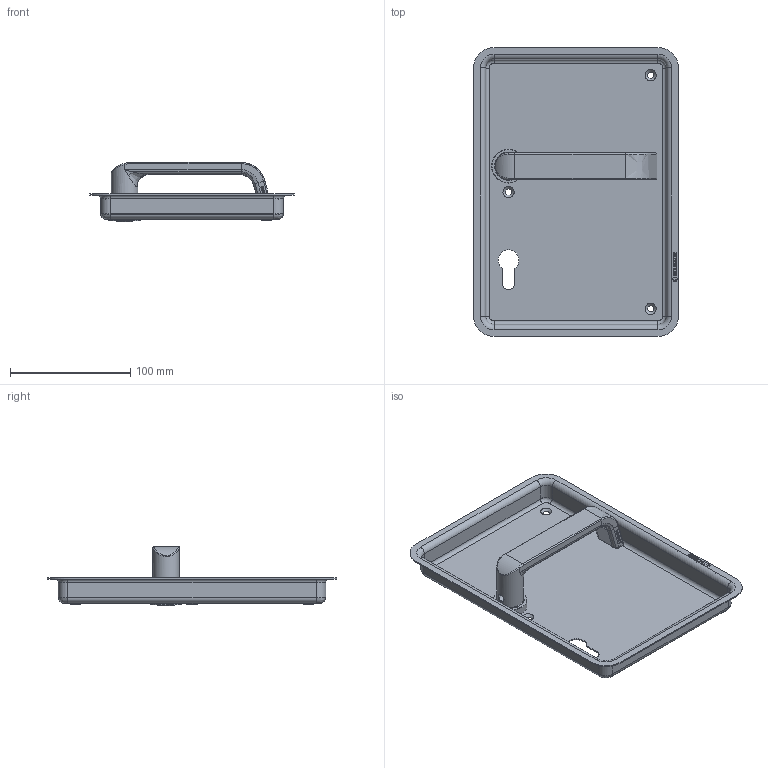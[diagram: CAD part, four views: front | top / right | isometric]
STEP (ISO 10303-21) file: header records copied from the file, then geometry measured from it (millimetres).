
FILE_DESCRIPTION(/* description */ (''),/* implementation_level */ '2;1');
FILE_NAME(/* name */ 'C:\ADSK_DMS_WS\Designs\Vorschläge\Loc Schalen\Muschel Serie 3\S3.20.D2\Heusser-Muschel S3.20.D2.378R.stp',/* time_stamp */ '2020-11-21T13:18:24+01:00',/* author */ ('gm'),/* organization */ (''),/* preprocessor_version */ 'ST-DEVELOPER v16.5',/* originating_system */ 'Autodesk Inventor 2017',/* authorisation */ '');
FILE_SCHEMA (('AUTOMOTIVE_DESIGN { 1 0 10303 214 3 1 1 }'));
Length unit declared in the file: millimetre
Products named in the file (1): S3.20.D2
Bounding box: 170 x 240 x 49 mm (x, y, z)
Volume: 94930.9 mm3; surface area: 120067.8 mm2
Topology: 1 solids, 2 shells, 613 faces, 1606 edges, 1039 vertices
Faces by surface type: plane 296, bspline 212, cylinder 72, torus 17, cone 16
Full cylindrical faces by diameter (mm): 1.7 x2, 6 x1, 16 x3, 18 x1, 19 x1, 19.1 x1, 22 x1, 23 x1, 23.2 x1, 24 x1, 25 x1, 26 x1, 28 x1
Entity records: 20960 total; most frequent: CARTESIAN_POINT 6413, ORIENTED_EDGE 3130, DIRECTION 2335, EDGE_CURVE 1565, VERTEX_POINT 1034, LINE 963, VECTOR 963, EDGE_LOOP 707
